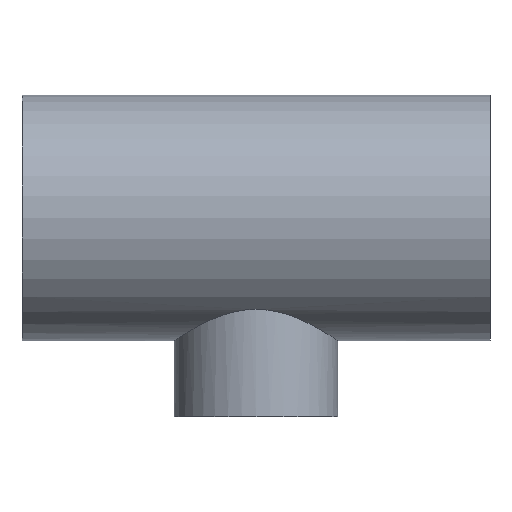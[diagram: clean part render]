
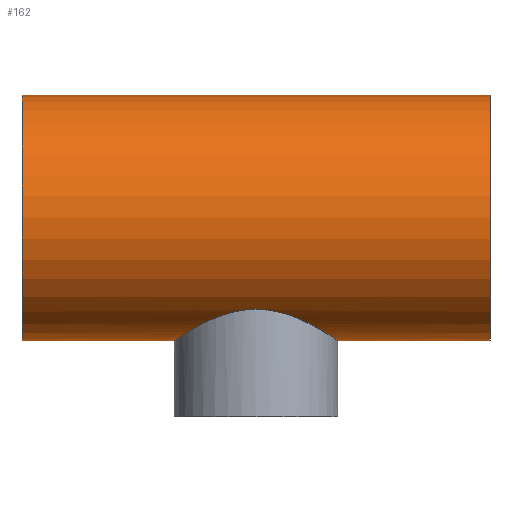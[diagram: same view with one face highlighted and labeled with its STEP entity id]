
A CAD part, top view. The second image highlights one B-rep face of the part: STEP entity #162.
In plain terms, the highlighted cylindrical face has radius 21 mm (diameter 42 mm), a full revolution.
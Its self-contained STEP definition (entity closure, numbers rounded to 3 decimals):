
#16=B_SPLINE_CURVE_WITH_KNOTS('',3,(#312,#313,#314,#315,#316,#317,#318,
#319,#320,#321,#322,#323,#324,#325,#326,#327,#328,#329,#330,#331,#332,#333,
#334,#335,#336,#337,#338,#339,#340,#341,#342,#343,#344,#345,#346,#347,#348,
#349,#350,#351,#352,#353,#354,#355,#356,#357,#358,#359,#360,#361),
 .UNSPECIFIED.,.T.,.F.,(4,2,2,2,2,2,2,2,2,2,2,2,2,2,2,2,2,2,2,2,2,2,2,2,
4),(0.,0.276,0.552,1.105,1.651,
1.924,2.197,2.47,2.743,3.29,
3.842,4.118,4.394,4.671,4.947,
5.499,6.045,6.318,6.592,6.865,
7.138,7.684,8.236,8.513,8.789),
 .UNSPECIFIED.);
#32=FACE_BOUND('',#69,.T.);
#33=FACE_BOUND('',#70,.T.);
#46=FACE_OUTER_BOUND('',#68,.T.);
#68=EDGE_LOOP('',(#136));
#69=EDGE_LOOP('',(#137));
#70=EDGE_LOOP('',(#138));
#88=CIRCLE('',#187,21.);
#89=CIRCLE('',#188,21.);
#101=VERTEX_POINT('',#309);
#102=VERTEX_POINT('',#311);
#103=VERTEX_POINT('',#362);
#115=EDGE_CURVE('',#101,#101,#88,.T.);
#116=EDGE_CURVE('',#102,#102,#16,.T.);
#117=EDGE_CURVE('',#103,#103,#89,.T.);
#136=ORIENTED_EDGE('',*,*,#115,.F.);
#137=ORIENTED_EDGE('',*,*,#116,.T.);
#138=ORIENTED_EDGE('',*,*,#117,.F.);
#152=CYLINDRICAL_SURFACE('',#186,21.);
#162=ADVANCED_FACE('',(#46,#32,#33),#152,.T.);
#186=AXIS2_PLACEMENT_3D('',#308,#230,#231);
#187=AXIS2_PLACEMENT_3D('',#310,#232,#233);
#188=AXIS2_PLACEMENT_3D('',#363,#234,#235);
#230=DIRECTION('center_axis',(1.,0.,0.));
#231=DIRECTION('ref_axis',(0.,-1.,0.));
#232=DIRECTION('center_axis',(-1.,0.,0.));
#233=DIRECTION('ref_axis',(0.,-1.,0.));
#234=DIRECTION('center_axis',(1.,0.,0.));
#235=DIRECTION('ref_axis',(0.,-1.,0.));
#308=CARTESIAN_POINT('Origin',(0.,0.,0.));
#309=CARTESIAN_POINT('',(-40.,21.,0.));
#310=CARTESIAN_POINT('Origin',(-40.,0.,0.));
#311=CARTESIAN_POINT('',(0.,-15.652,14.));
#312=CARTESIAN_POINT('Ctrl Pts',(0.,-15.652,
14.));
#313=CARTESIAN_POINT('Ctrl Pts',(0.921,-15.652,14.));
#314=CARTESIAN_POINT('Ctrl Pts',(1.855,-15.736,13.908));
#315=CARTESIAN_POINT('Ctrl Pts',(3.689,-16.056,13.538));
#316=CARTESIAN_POINT('Ctrl Pts',(4.587,-16.291,13.26));
#317=CARTESIAN_POINT('Ctrl Pts',(7.149,-17.132,12.179));
#318=CARTESIAN_POINT('Ctrl Pts',(8.682,-17.869,11.117));
#319=CARTESIAN_POINT('Ctrl Pts',(11.104,-19.164,8.695));
#320=CARTESIAN_POINT('Ctrl Pts',(12.174,-19.822,7.16));
#321=CARTESIAN_POINT('Ctrl Pts',(13.261,-20.513,4.583));
#322=CARTESIAN_POINT('Ctrl Pts',(13.54,-20.696,3.679));
#323=CARTESIAN_POINT('Ctrl Pts',(13.91,-20.939,1.843));
#324=CARTESIAN_POINT('Ctrl Pts',(14.,-21.,0.91));
#325=CARTESIAN_POINT('Ctrl Pts',(14.,-21.,-0.91));
#326=CARTESIAN_POINT('Ctrl Pts',(13.91,-20.939,-1.843));
#327=CARTESIAN_POINT('Ctrl Pts',(13.54,-20.696,-3.679));
#328=CARTESIAN_POINT('Ctrl Pts',(13.261,-20.513,-4.583));
#329=CARTESIAN_POINT('Ctrl Pts',(12.174,-19.822,-7.16));
#330=CARTESIAN_POINT('Ctrl Pts',(11.104,-19.164,-8.695));
#331=CARTESIAN_POINT('Ctrl Pts',(8.682,-17.869,-11.117));
#332=CARTESIAN_POINT('Ctrl Pts',(7.149,-17.132,-12.179));
#333=CARTESIAN_POINT('Ctrl Pts',(4.587,-16.291,-13.26));
#334=CARTESIAN_POINT('Ctrl Pts',(3.689,-16.056,-13.538));
#335=CARTESIAN_POINT('Ctrl Pts',(1.855,-15.736,-13.908));
#336=CARTESIAN_POINT('Ctrl Pts',(0.921,-15.652,-14.));
#337=CARTESIAN_POINT('Ctrl Pts',(-0.921,-15.652,-14.));
#338=CARTESIAN_POINT('Ctrl Pts',(-1.855,-15.736,-13.908));
#339=CARTESIAN_POINT('Ctrl Pts',(-3.689,-16.056,-13.538));
#340=CARTESIAN_POINT('Ctrl Pts',(-4.587,-16.291,-13.26));
#341=CARTESIAN_POINT('Ctrl Pts',(-7.149,-17.132,-12.179));
#342=CARTESIAN_POINT('Ctrl Pts',(-8.682,-17.869,-11.117));
#343=CARTESIAN_POINT('Ctrl Pts',(-11.104,-19.164,-8.695));
#344=CARTESIAN_POINT('Ctrl Pts',(-12.174,-19.822,-7.16));
#345=CARTESIAN_POINT('Ctrl Pts',(-13.261,-20.513,-4.583));
#346=CARTESIAN_POINT('Ctrl Pts',(-13.54,-20.696,-3.679));
#347=CARTESIAN_POINT('Ctrl Pts',(-13.91,-20.939,-1.843));
#348=CARTESIAN_POINT('Ctrl Pts',(-14.,-21.,-0.91));
#349=CARTESIAN_POINT('Ctrl Pts',(-14.,-21.,0.91));
#350=CARTESIAN_POINT('Ctrl Pts',(-13.91,-20.939,1.843));
#351=CARTESIAN_POINT('Ctrl Pts',(-13.54,-20.696,3.679));
#352=CARTESIAN_POINT('Ctrl Pts',(-13.261,-20.513,4.583));
#353=CARTESIAN_POINT('Ctrl Pts',(-12.174,-19.822,7.16));
#354=CARTESIAN_POINT('Ctrl Pts',(-11.104,-19.164,8.695));
#355=CARTESIAN_POINT('Ctrl Pts',(-8.682,-17.869,11.117));
#356=CARTESIAN_POINT('Ctrl Pts',(-7.149,-17.132,12.179));
#357=CARTESIAN_POINT('Ctrl Pts',(-4.587,-16.291,13.26));
#358=CARTESIAN_POINT('Ctrl Pts',(-3.689,-16.056,13.538));
#359=CARTESIAN_POINT('Ctrl Pts',(-1.855,-15.736,13.908));
#360=CARTESIAN_POINT('Ctrl Pts',(-0.921,-15.652,14.));
#361=CARTESIAN_POINT('Ctrl Pts',(0.,-15.652,14.));
#362=CARTESIAN_POINT('',(40.,21.,0.));
#363=CARTESIAN_POINT('Origin',(40.,0.,0.));
